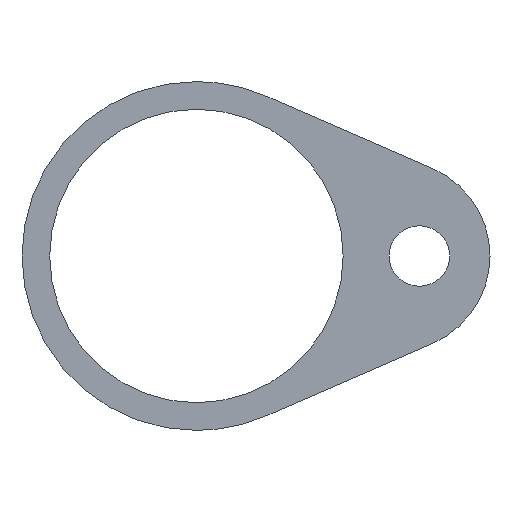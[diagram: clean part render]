
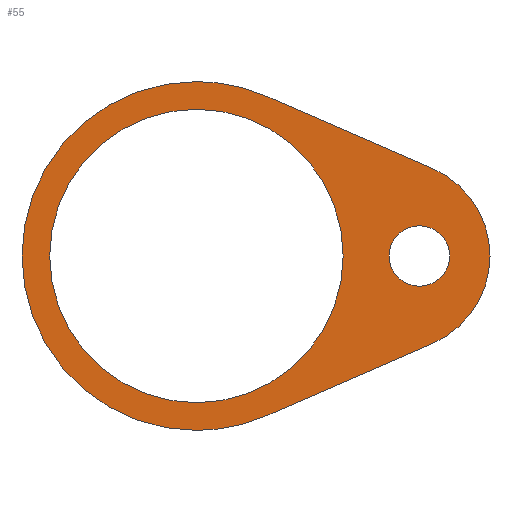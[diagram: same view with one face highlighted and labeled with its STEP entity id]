
A CAD part, front view. The second image highlights one B-rep face of the part: STEP entity #55.
In plain terms, the highlighted planar face has unit normal (0, -1, 0).
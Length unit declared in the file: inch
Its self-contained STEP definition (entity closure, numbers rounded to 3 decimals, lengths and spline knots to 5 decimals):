
#7 = VECTOR ( 'NONE', #356, 39.37008 ) ;
#8 = LINE ( 'NONE', #357, #7 ) ;
#11 = CIRCLE ( 'NONE', #220, 0.98425 ) ;
#24 = ORIENTED_EDGE ( 'NONE', *, *, #204, .T. ) ;
#25 = ORIENTED_EDGE ( 'NONE', *, *, #213, .T. ) ;
#26 = ORIENTED_EDGE ( 'NONE', *, *, #197, .F. ) ;
#28 = ORIENTED_EDGE ( 'NONE', *, *, #198, .F. ) ;
#29 = ORIENTED_EDGE ( 'NONE', *, *, #207, .T. ) ;
#55 = ADVANCED_FACE ( 'NONE', ( #92, #94, #72 ), #394, .F. ) ;
#66 = CIRCLE ( 'NONE', #231, 0.203 ) ;
#70 = CIRCLE ( 'NONE', #229, 0.98425 ) ;
#72 = FACE_BOUND ( 'NONE', #128, .T. ) ;
#80 = CIRCLE ( 'NONE', #228, 1.17 ) ;
#82 = CIRCLE ( 'NONE', #223, 1.17 ) ;
#92 = FACE_BOUND ( 'NONE', #126, .T. ) ;
#94 = FACE_OUTER_BOUND ( 'NONE', #123, .T. ) ;
#96 = CIRCLE ( 'NONE', #224, 0.203 ) ;
#123 = EDGE_LOOP ( 'NONE', ( #26, #28, #145, #146, #147, #148 ) ) ;
#126 = EDGE_LOOP ( 'NONE', ( #24, #25 ) ) ;
#128 = EDGE_LOOP ( 'NONE', ( #149, #29 ) ) ;
#145 = ORIENTED_EDGE ( 'NONE', *, *, #189, .F. ) ;
#146 = ORIENTED_EDGE ( 'NONE', *, *, #196, .F. ) ;
#147 = ORIENTED_EDGE ( 'NONE', *, *, #210, .F. ) ;
#148 = ORIENTED_EDGE ( 'NONE', *, *, #208, .F. ) ;
#149 = ORIENTED_EDGE ( 'NONE', *, *, #219, .T. ) ;
#168 = VECTOR ( 'NONE', #349, 39.37008 ) ;
#169 = LINE ( 'NONE', #358, #168 ) ;
#170 = CIRCLE ( 'NONE', #222, 1.17 ) ;
#177 = AXIS2_PLACEMENT_3D ( 'NONE', #393, #392, #391 ) ;
#189 = EDGE_CURVE ( 'NONE', #326, #309, #431, .T. ) ;
#196 = EDGE_CURVE ( 'NONE', #317, #326, #8, .T. ) ;
#197 = EDGE_CURVE ( 'NONE', #306, #385, #170, .T. ) ;
#198 = EDGE_CURVE ( 'NONE', #309, #306, #169, .T. ) ;
#204 = EDGE_CURVE ( 'NONE', #253, #372, #11, .T. ) ;
#207 = EDGE_CURVE ( 'NONE', #362, #312, #96, .T. ) ;
#208 = EDGE_CURVE ( 'NONE', #385, #314, #82, .T. ) ;
#210 = EDGE_CURVE ( 'NONE', #314, #317, #80, .T. ) ;
#213 = EDGE_CURVE ( 'NONE', #372, #253, #70, .T. ) ;
#219 = EDGE_CURVE ( 'NONE', #312, #362, #66, .T. ) ;
#220 = AXIS2_PLACEMENT_3D ( 'NONE', #343, #333, #331 ) ;
#221 = AXIS2_PLACEMENT_3D ( 'NONE', #377, #374, #373 ) ;
#222 = AXIS2_PLACEMENT_3D ( 'NONE', #355, #354, #353 ) ;
#223 = AXIS2_PLACEMENT_3D ( 'NONE', #325, #321, #320 ) ;
#224 = AXIS2_PLACEMENT_3D ( 'NONE', #328, #327, #347 ) ;
#228 = AXIS2_PLACEMENT_3D ( 'NONE', #334, #313, #311 ) ;
#229 = AXIS2_PLACEMENT_3D ( 'NONE', #304, #300, #298 ) ;
#231 = AXIS2_PLACEMENT_3D ( 'NONE', #290, #279, #278 ) ;
#253 = VERTEX_POINT ( 'NONE', #281 ) ;
#261 = CARTESIAN_POINT ( 'NONE',  ( 0., 0., -1.17 ) ) ;
#263 = CARTESIAN_POINT ( 'NONE',  ( 0., 0., 0.98425 ) ) ;
#267 = CARTESIAN_POINT ( 'NONE',  ( 1.495, 0., 0.203 ) ) ;
#271 = CARTESIAN_POINT ( 'NONE',  ( 1.58436, 0., 0.58692 ) ) ;
#273 = CARTESIAN_POINT ( 'NONE',  ( 0.46654, 0., 1.07296 ) ) ;
#274 = CARTESIAN_POINT ( 'NONE',  ( 0., 0., 1.17 ) ) ;
#275 = CARTESIAN_POINT ( 'NONE',  ( 1.495, 0., -0.203 ) ) ;
#276 = CARTESIAN_POINT ( 'NONE',  ( 1.58436, 0., -0.58692 ) ) ;
#278 = DIRECTION ( 'NONE',  ( 0., 0., 1. ) ) ;
#279 = DIRECTION ( 'NONE',  ( 0., 1., 0. ) ) ;
#280 = CARTESIAN_POINT ( 'NONE',  ( 0.46654, 0., -1.07296 ) ) ;
#281 = CARTESIAN_POINT ( 'NONE',  ( 0., 0., -0.98425 ) ) ;
#290 = CARTESIAN_POINT ( 'NONE',  ( 1.495, 0., 0. ) ) ;
#298 = DIRECTION ( 'NONE',  ( 0., 0., 1. ) ) ;
#300 = DIRECTION ( 'NONE',  ( 0., 1., 0. ) ) ;
#304 = CARTESIAN_POINT ( 'NONE',  ( 0., 0., 0. ) ) ;
#306 = VERTEX_POINT ( 'NONE', #280 ) ;
#309 = VERTEX_POINT ( 'NONE', #276 ) ;
#311 = DIRECTION ( 'NONE',  ( 0., 0., 1. ) ) ;
#312 = VERTEX_POINT ( 'NONE', #275 ) ;
#313 = DIRECTION ( 'NONE',  ( 0., 1., 0. ) ) ;
#314 = VERTEX_POINT ( 'NONE', #274 ) ;
#317 = VERTEX_POINT ( 'NONE', #273 ) ;
#320 = DIRECTION ( 'NONE',  ( 0., 0., 1. ) ) ;
#321 = DIRECTION ( 'NONE',  ( 0., 1., 0. ) ) ;
#325 = CARTESIAN_POINT ( 'NONE',  ( 0., 0., 0. ) ) ;
#326 = VERTEX_POINT ( 'NONE', #271 ) ;
#327 = DIRECTION ( 'NONE',  ( 0., 1., 0. ) ) ;
#328 = CARTESIAN_POINT ( 'NONE',  ( 1.495, 0., 0. ) ) ;
#331 = DIRECTION ( 'NONE',  ( 0., 0., 1. ) ) ;
#333 = DIRECTION ( 'NONE',  ( 0., 1., 0. ) ) ;
#334 = CARTESIAN_POINT ( 'NONE',  ( 0., 0., 0. ) ) ;
#343 = CARTESIAN_POINT ( 'NONE',  ( 0., 0., 0. ) ) ;
#347 = DIRECTION ( 'NONE',  ( 0., 0., 1. ) ) ;
#349 = DIRECTION ( 'NONE',  ( -0.917, 0., -0.399 ) ) ;
#353 = DIRECTION ( 'NONE',  ( 0., 0., 1. ) ) ;
#354 = DIRECTION ( 'NONE',  ( 0., 1., 0. ) ) ;
#355 = CARTESIAN_POINT ( 'NONE',  ( 0., 0., 0. ) ) ;
#356 = DIRECTION ( 'NONE',  ( 0.917, 0., -0.399 ) ) ;
#357 = CARTESIAN_POINT ( 'NONE',  ( 0.46654, 0., 1.07296 ) ) ;
#358 = CARTESIAN_POINT ( 'NONE',  ( 0.46654, 0., -1.07296 ) ) ;
#362 = VERTEX_POINT ( 'NONE', #267 ) ;
#372 = VERTEX_POINT ( 'NONE', #263 ) ;
#373 = DIRECTION ( 'NONE',  ( 0., 0., 1. ) ) ;
#374 = DIRECTION ( 'NONE',  ( 0., 1., 0. ) ) ;
#377 = CARTESIAN_POINT ( 'NONE',  ( 1.32916, 0., 0. ) ) ;
#385 = VERTEX_POINT ( 'NONE', #261 ) ;
#391 = DIRECTION ( 'NONE',  ( 0., 0., 1. ) ) ;
#392 = DIRECTION ( 'NONE',  ( 0., 1., 0. ) ) ;
#393 = CARTESIAN_POINT ( 'NONE',  ( 0., 0., 0. ) ) ;
#394 = PLANE ( 'NONE',  #177 ) ;
#431 = CIRCLE ( 'NONE', #221, 0.64 ) ;
